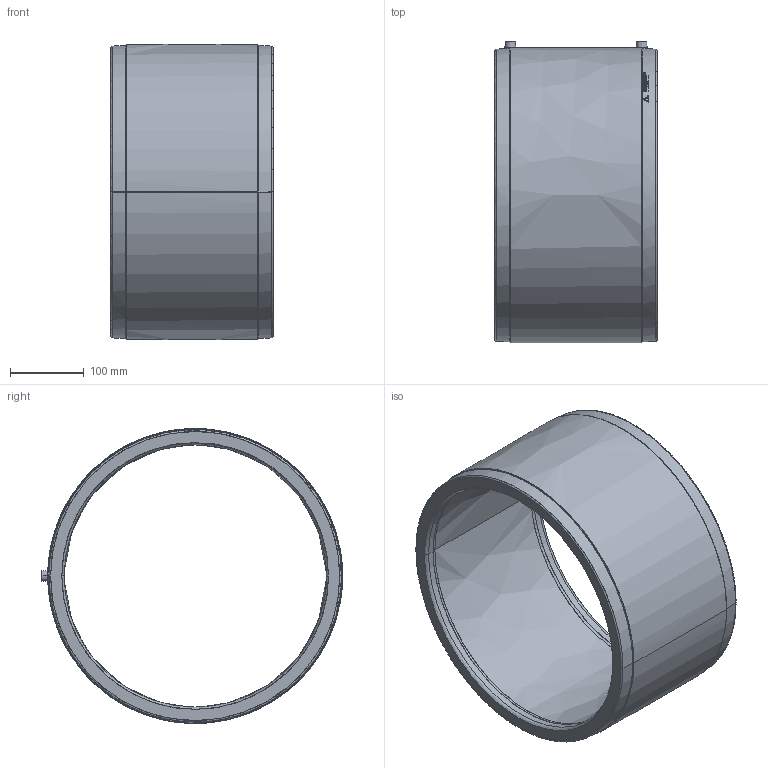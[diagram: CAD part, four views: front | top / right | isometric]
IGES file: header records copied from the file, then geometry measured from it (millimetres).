
Start section:  PTC IGES file: am_d355.igs
Global section: file name: am_d355.igs; native system: Pro/ENGINEER by Parametric Technology Corporation; preprocessor: 2011490; author: mtunjic; organization: Unknown; date: 20130729.163311; units: millimetre
Bounding box: 220 x 408.6 x 400 mm (x, y, z)
Surface area: 569348.5 mm2 (no closed solid volume)
Topology: 0 solids, 0 shells, 231 faces, 1104 edges, 1104 vertices
Faces by surface type: bspline 231
